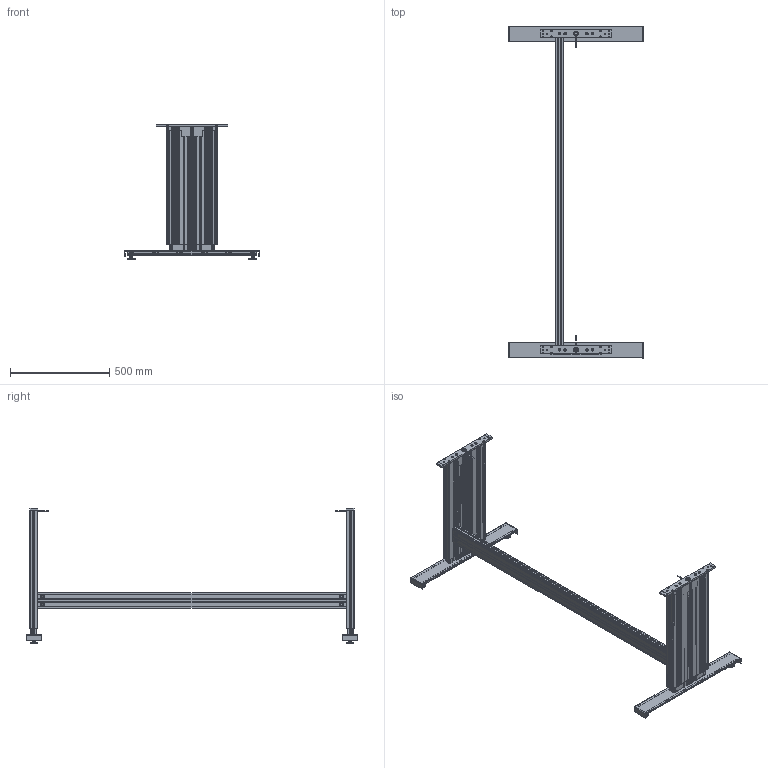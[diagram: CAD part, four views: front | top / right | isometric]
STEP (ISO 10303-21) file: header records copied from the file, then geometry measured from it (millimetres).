
FILE_DESCRIPTION(/* description */ ('Unknown'),/* implementation_level */ '2;1');
FILE_NAME(/* name */ '108.00433 Untergestell TT-2 1840 1590_eingefahren',/* time_stamp */ '2017-11-24T16:08:48+01:00',/* author */ ('Unknown'),/* organization */ ('Unknown'),/* preprocessor_version */ 'ST-DEVELOPER v16.7',/* originating_system */ 'DEX',/* authorisation */ $);
FILE_SCHEMA (('AP203_CONFIGURATION_CONTROLLED_3D_DESIGN_OF_MECHANICAL_PARTS_AND_ASSEMBLIES_MIM_LF { 1 0 10303 203 3 1 4 }','AUTOMOTIVE_DESIGN {1 0 10303 214 3 1 1}'));
Products named in the file (30): 108.00433; 106.00385_oa_0; 119.00201; 119.00152; 142.00188; 142.00166; 142.00031; 126.00102; 109.00025_oa_1; 115.00008_oa_2; 125.00063; 142.00021; 125.00021; 113.00002_70mm; 106.00385_oa_3; 109.00025_oa_4; 115.00008_oa_5; 115.00094; 119.00174; 142.00207; 127.00515; 127.00520; 127.00556; 127.00557; 127.00520_461_469_Kehlnaht 1_oa_6; 113.00095; 113.00099; 113.00096; 113.00097; 113.00098
Assembly tree (52 placements, depth 5):
  108.00433
    106.00385_oa_0
      119.00201
      119.00152
      142.00188  x2
      142.00166  x4
      142.00031
      126.00102
      109.00025_oa_1
        115.00008_oa_2
        125.00063
        142.00021
        125.00021
      113.00002_70mm
    106.00385_oa_3
      119.00201
      119.00152
      142.00188  x2
      142.00166  x4
      142.00031
      126.00102
      109.00025_oa_4
        115.00008_oa_5
        125.00063
        142.00021
        125.00021
      113.00002_70mm
    115.00094
      119.00174
      142.00207  x4
    127.00515  x2
      127.00520
        127.00556
        127.00557
        127.00520_461_469_Kehlnaht 1_oa_6
      113.00095
        113.00099
        113.00096
          113.00097
          113.00098
Bounding box: 680 x 1670 x 683.5 mm (x, y, z)
Volume: 7888514.7 mm3; surface area: 5640972 mm2
Topology: 73 solids, 81 shells, 4884 faces, 13898 edges, 9236 vertices
Faces by surface type: plane 3036, cylinder 1548, cone 194, torus 72, bspline 24, sphere 10
Full cylindrical faces by diameter (mm): 1.8 x4, 2.2 x2, 2.99 x2, 3.242 x4, 3.5 x2, 4 x6, 4.1 x2, 4.2 x2, 5 x12, 5.5 x8, 6.6 x8, 6.647 x16, 6.917 x4, 7.5 x4, 8 x16, 8.376 x6, 8.5 x20, 8.7 x8, 10 x8, 11.3 x8, 12 x4, 12.5 x10, 13 x4, 13.5 x6, 13.7 x2, 14.4 x2, 17.9 x4, 18 x16, 25 x10, 27.2 x4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
Entity records: 85317 total; most frequent: CARTESIAN_POINT 14590, ORIENTED_EDGE 13064, DIRECTION 12703, EDGE_CURVE 6532, LINE 4481, VECTOR 4481, VERTEX_POINT 4423, AXIS2_PLACEMENT_3D 4111
